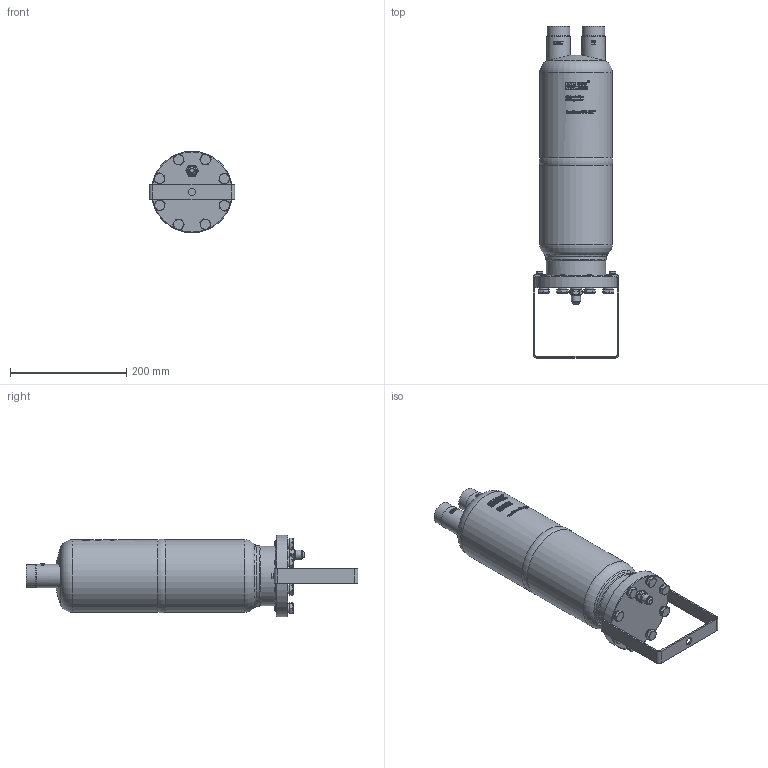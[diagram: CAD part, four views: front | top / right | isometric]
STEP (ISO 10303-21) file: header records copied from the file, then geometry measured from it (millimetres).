
FILE_DESCRIPTION(/* description */ (''),/* implementation_level */ '2;1');
FILE_NAME(/* name */ 'P:\OS\OS-35F\OS-35F.stp',/* time_stamp */ '2017-10-04T08:04:01+02:00',/* author */ ('neufeld'),/* organization */ (''),/* preprocessor_version */ 'ST-DEVELOPER v16.1',/* originating_system */ 'Autodesk Inventor 2016',/* authorisation */ '');
FILE_SCHEMA (('AUTOMOTIVE_DESIGN { 1 0 10303 214 3 1 1 }'));
Products named in the file (2): OS-35F; OS-35F_1
Assembly tree (1 placements, depth 2):
  OS-35F_1
    OS-35F
Bounding box: 148 x 572.02 x 140 mm (x, y, z)
Volume: 4860069.8 mm3; surface area: 242402.8 mm2
Topology: 1 solids, 1 shells, 1358 faces, 3571 edges, 2341 vertices
Faces by surface type: plane 690, bspline 370, cylinder 175, cone 117, torus 6
Full cylindrical faces by diameter (mm): 7.2 x1, 8.7 x2, 9.188 x8, 10 x16, 10.5 x8, 13 x1, 13.5 x1, 15.4 x8, 15.7 x1, 19 x1, 35.2 x2, 39 x2, 40 x2, 102 x1, 105 x1, 125 x2, 140 x1
Entity records: 49126 total; most frequent: CARTESIAN_POINT 18288, ORIENTED_EDGE 6880, DIRECTION 5502, EDGE_CURVE 3440, VERTEX_POINT 2300, AXIS2_PLACEMENT_3D 1998, EDGE_LOOP 1594, LINE 1506
